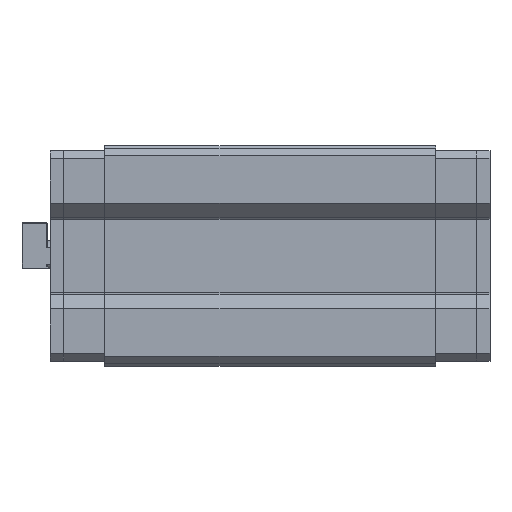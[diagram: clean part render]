
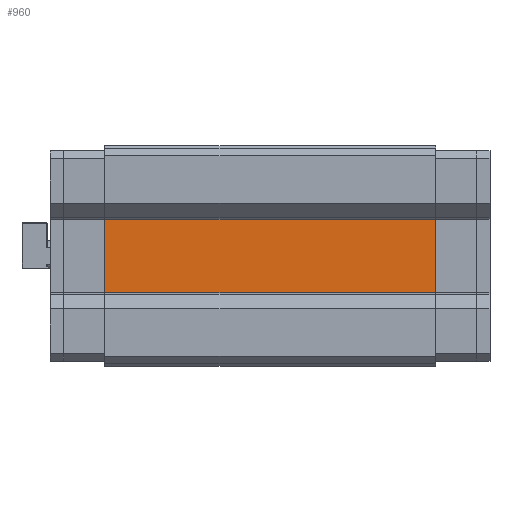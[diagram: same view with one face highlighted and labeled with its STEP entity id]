
A CAD part, front view. The second image highlights one B-rep face of the part: STEP entity #960.
In plain terms, the highlighted planar face has unit normal (0, -1, 0).
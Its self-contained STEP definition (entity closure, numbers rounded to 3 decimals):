
#59 = EDGE_CURVE ( 'NONE', #9379, #1862, #885, .T. ) ;
#314 = CARTESIAN_POINT ( 'NONE',  ( -64.4, 0., 7.2 ) ) ;
#453 = DIRECTION ( 'NONE',  ( -1., 0., 0. ) ) ;
#885 = LINE ( 'NONE', #7691, #6364 ) ;
#960 = ADVANCED_FACE ( 'NONE', ( #3027 ), #3805, .T. ) ;
#1024 = EDGE_LOOP ( 'NONE', ( #8821, #2719, #4617, #10017 ) ) ;
#1862 = VERTEX_POINT ( 'NONE', #9547 ) ;
#2386 = LINE ( 'NONE', #5469, #9805 ) ;
#2511 = DIRECTION ( 'NONE',  ( -1., 0., 0. ) ) ;
#2719 = ORIENTED_EDGE ( 'NONE', *, *, #7601, .F. ) ;
#2734 = VECTOR ( 'NONE', #4238, 1000. ) ;
#3027 = FACE_OUTER_BOUND ( 'NONE', #1024, .T. ) ;
#3103 = AXIS2_PLACEMENT_3D ( 'NONE', #5972, #12568, #5791 ) ;
#3805 = PLANE ( 'NONE',  #3103 ) ;
#4172 = LINE ( 'NONE', #4306, #8964 ) ;
#4238 = DIRECTION ( 'NONE',  ( 0., 0., 1. ) ) ;
#4306 = CARTESIAN_POINT ( 'NONE',  ( 85.6, 0., -14.4 ) ) ;
#4617 = ORIENTED_EDGE ( 'NONE', *, *, #59, .F. ) ;
#5469 = CARTESIAN_POINT ( 'NONE',  ( 85.6, 0., 14.4 ) ) ;
#5791 = DIRECTION ( 'NONE',  ( 0., 0., -1. ) ) ;
#5972 = CARTESIAN_POINT ( 'NONE',  ( -64.4, 0., 14.4 ) ) ;
#6011 = CARTESIAN_POINT ( 'NONE',  ( -64.4, 0., -14.4 ) ) ;
#6297 = VERTEX_POINT ( 'NONE', #6011 ) ;
#6364 = VECTOR ( 'NONE', #8643, 1000. ) ;
#7262 = CARTESIAN_POINT ( 'NONE',  ( -64.4, 0., 14.4 ) ) ;
#7601 = EDGE_CURVE ( 'NONE', #1862, #6297, #4172, .T. ) ;
#7691 = CARTESIAN_POINT ( 'NONE',  ( 64.4, 0., 7.2 ) ) ;
#8643 = DIRECTION ( 'NONE',  ( 0., 0., -1. ) ) ;
#8821 = ORIENTED_EDGE ( 'NONE', *, *, #11742, .F. ) ;
#8964 = VECTOR ( 'NONE', #453, 1000. ) ;
#9161 = LINE ( 'NONE', #314, #2734 ) ;
#9379 = VERTEX_POINT ( 'NONE', #9647 ) ;
#9547 = CARTESIAN_POINT ( 'NONE',  ( 64.4, 0., -14.4 ) ) ;
#9647 = CARTESIAN_POINT ( 'NONE',  ( 64.4, 0., 14.4 ) ) ;
#9805 = VECTOR ( 'NONE', #2511, 1000. ) ;
#10017 = ORIENTED_EDGE ( 'NONE', *, *, #11289, .T. ) ;
#11264 = VERTEX_POINT ( 'NONE', #7262 ) ;
#11289 = EDGE_CURVE ( 'NONE', #9379, #11264, #2386, .T. ) ;
#11742 = EDGE_CURVE ( 'NONE', #6297, #11264, #9161, .T. ) ;
#12568 = DIRECTION ( 'NONE',  ( 0., -1., 0. ) ) ;
